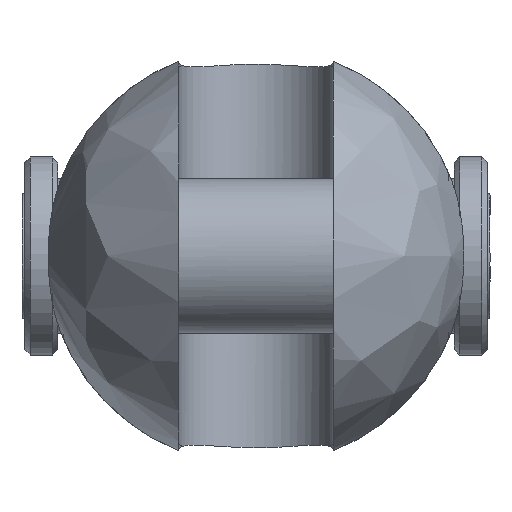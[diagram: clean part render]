
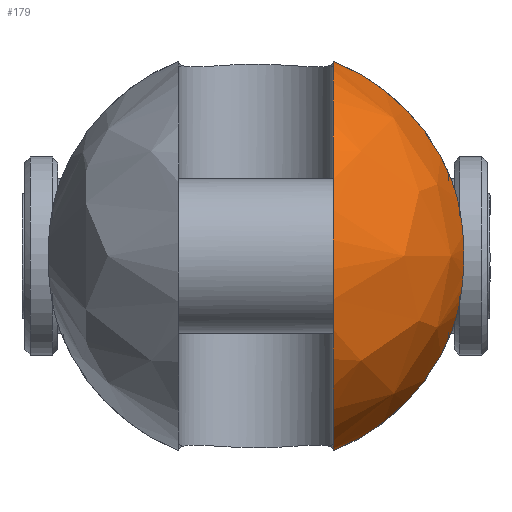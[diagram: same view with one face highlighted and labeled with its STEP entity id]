
A CAD part, left-side view. The second image highlights one B-rep face of the part: STEP entity #179.
In plain terms, the highlighted free-form (B-spline) face has degree [2, 2] with [9, 5] control points.
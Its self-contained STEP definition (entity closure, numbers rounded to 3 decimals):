
#179=ADVANCED_FACE('',(#321),#2437,.T.);
#321=FACE_OUTER_BOUND('',#482,.T.);
#482=EDGE_LOOP('',(#1203,#1204,#1205,#1206));
#1203=ORIENTED_EDGE('',*,*,#1592,.T.);
#1204=ORIENTED_EDGE('',*,*,#1614,.F.);
#1205=ORIENTED_EDGE('',*,*,#1624,.T.);
#1206=ORIENTED_EDGE('',*,*,#1608,.F.);
#1592=EDGE_CURVE('',#2268,#2267,#2000,.T.);
#1608=EDGE_CURVE('',#2268,#2280,#2010,.T.);
#1614=EDGE_CURVE('',#2287,#2267,#2011,.T.);
#1624=EDGE_CURVE('',#2287,#2280,#1800,.T.);
#1800=B_SPLINE_CURVE_WITH_KNOTS('',3,(#6076,#6077,#6078,#6079,#6080,#6081,
#6082,#6083,#6084,#6085),.UNSPECIFIED.,.F.,.F.,(4,2,2,2,4),(0.,3.573,
7.366,11.159,14.732),.UNSPECIFIED.);
#2000=(
BOUNDED_CURVE()
B_SPLINE_CURVE(2,(#5932,#5933,#5934,#5935,#5936),.UNSPECIFIED.,.F.,.F.)
B_SPLINE_CURVE_WITH_KNOTS((3,2,3),(-55.492,-27.746,
0.),.UNSPECIFIED.)
CURVE()
GEOMETRIC_REPRESENTATION_ITEM()
RATIONAL_B_SPLINE_CURVE((1.,0.707,1.,0.707,1.))
REPRESENTATION_ITEM('')
);
#2010=(
BOUNDED_CURVE()
B_SPLINE_CURVE(2,(#6010,#6011,#6012),.UNSPECIFIED.,.F.,.F.)
B_SPLINE_CURVE_WITH_KNOTS((3,3),(0.,15.92),.UNSPECIFIED.)
CURVE()
GEOMETRIC_REPRESENTATION_ITEM()
RATIONAL_B_SPLINE_CURVE((1.,0.914,1.))
REPRESENTATION_ITEM('')
);
#2011=(
BOUNDED_CURVE()
B_SPLINE_CURVE(2,(#6035,#6036,#6037),.UNSPECIFIED.,.F.,.F.)
B_SPLINE_CURVE_WITH_KNOTS((3,3),(0.,15.92),.UNSPECIFIED.)
CURVE()
GEOMETRIC_REPRESENTATION_ITEM()
RATIONAL_B_SPLINE_CURVE((1.,0.914,1.))
REPRESENTATION_ITEM('')
);
#2267=VERTEX_POINT('',#5800);
#2268=VERTEX_POINT('',#5801);
#2280=VERTEX_POINT('',#5813);
#2287=VERTEX_POINT('',#5820);
#2437=(
BOUNDED_SURFACE()
B_SPLINE_SURFACE(2,2,((#5514,#5515,#5516,#5517,#5518),(#5519,#5520,#5521,
#5522,#5523),(#5524,#5525,#5526,#5527,#5528),(#5529,#5530,#5531,#5532,#5533),
(#5534,#5535,#5536,#5537,#5538),(#5539,#5540,#5541,#5542,#5543),(#5544,
#5545,#5546,#5547,#5548),(#5549,#5550,#5551,#5552,#5553),(#5554,#5555,#5556,
#5557,#5558)),.UNSPECIFIED.,.T.,.F.,.F.)
B_SPLINE_SURFACE_WITH_KNOTS((3,2,2,2,3),(3,2,3),(0.,1.571,3.142,
4.712,6.283),(-1.571,0.,1.571),
 .UNSPECIFIED.)
GEOMETRIC_REPRESENTATION_ITEM()
RATIONAL_B_SPLINE_SURFACE(((1.,0.707,1.,0.707,1.),
(0.707,0.5,0.707,0.5,0.707),(1.,0.707,
1.,0.707,1.),(0.707,0.5,0.707,0.5,0.707),
(1.,0.707,1.,0.707,1.),(0.707,0.5,0.707,
0.5,0.707),(1.,0.707,1.,0.707,1.),(0.707,
0.5,0.707,0.5,0.707),(1.,0.707,1.,0.707,
1.)))
REPRESENTATION_ITEM('')
SURFACE()
);
#5514=CARTESIAN_POINT('',(-26.5,0.,0.));
#5515=CARTESIAN_POINT('',(-26.5,19.,0.));
#5516=CARTESIAN_POINT('',(-7.5,19.,0.));
#5517=CARTESIAN_POINT('',(11.5,19.,0.));
#5518=CARTESIAN_POINT('',(11.5,0.,0.));
#5519=CARTESIAN_POINT('',(-26.5,0.,0.));
#5520=CARTESIAN_POINT('',(-26.5,19.,19.));
#5521=CARTESIAN_POINT('',(-7.5,19.,19.));
#5522=CARTESIAN_POINT('',(11.5,19.,19.));
#5523=CARTESIAN_POINT('',(11.5,0.,0.));
#5524=CARTESIAN_POINT('',(-26.5,0.,0.));
#5525=CARTESIAN_POINT('',(-26.5,0.,19.));
#5526=CARTESIAN_POINT('',(-7.5,0.,19.));
#5527=CARTESIAN_POINT('',(11.5,0.,19.));
#5528=CARTESIAN_POINT('',(11.5,0.,0.));
#5529=CARTESIAN_POINT('',(-26.5,0.,0.));
#5530=CARTESIAN_POINT('',(-26.5,-19.,19.));
#5531=CARTESIAN_POINT('',(-7.5,-19.,19.));
#5532=CARTESIAN_POINT('',(11.5,-19.,19.));
#5533=CARTESIAN_POINT('',(11.5,0.,0.));
#5534=CARTESIAN_POINT('',(-26.5,0.,0.));
#5535=CARTESIAN_POINT('',(-26.5,-19.,0.));
#5536=CARTESIAN_POINT('',(-7.5,-19.,0.));
#5537=CARTESIAN_POINT('',(11.5,-19.,0.));
#5538=CARTESIAN_POINT('',(11.5,0.,0.));
#5539=CARTESIAN_POINT('',(-26.5,0.,0.));
#5540=CARTESIAN_POINT('',(-26.5,-19.,-19.));
#5541=CARTESIAN_POINT('',(-7.5,-19.,-19.));
#5542=CARTESIAN_POINT('',(11.5,-19.,-19.));
#5543=CARTESIAN_POINT('',(11.5,0.,0.));
#5544=CARTESIAN_POINT('',(-26.5,0.,0.));
#5545=CARTESIAN_POINT('',(-26.5,0.,-19.));
#5546=CARTESIAN_POINT('',(-7.5,0.,-19.));
#5547=CARTESIAN_POINT('',(11.5,0.,-19.));
#5548=CARTESIAN_POINT('',(11.5,0.,0.));
#5549=CARTESIAN_POINT('',(-26.5,0.,0.));
#5550=CARTESIAN_POINT('',(-26.5,19.,-19.));
#5551=CARTESIAN_POINT('',(-7.5,19.,-19.));
#5552=CARTESIAN_POINT('',(11.5,19.,-19.));
#5553=CARTESIAN_POINT('',(11.5,0.,0.));
#5554=CARTESIAN_POINT('',(-26.5,0.,0.));
#5555=CARTESIAN_POINT('',(-26.5,19.,0.));
#5556=CARTESIAN_POINT('',(-7.5,19.,0.));
#5557=CARTESIAN_POINT('',(11.5,19.,0.));
#5558=CARTESIAN_POINT('',(11.5,0.,0.));
#5800=CARTESIAN_POINT('',(-7.5,-7.,-17.664));
#5801=CARTESIAN_POINT('',(-7.5,-7.,17.664));
#5813=CARTESIAN_POINT('',(-7.5,-17.812,6.614));
#5820=CARTESIAN_POINT('',(-7.5,-17.812,-6.614));
#5932=CARTESIAN_POINT('',(-7.5,-7.,17.664));
#5933=CARTESIAN_POINT('',(-25.164,-7.,17.664));
#5934=CARTESIAN_POINT('',(-25.164,-7.,0.));
#5935=CARTESIAN_POINT('',(-25.164,-7.,-17.664));
#5936=CARTESIAN_POINT('',(-7.5,-7.,-17.664));
#6010=CARTESIAN_POINT('',(-7.5,-7.,17.664));
#6011=CARTESIAN_POINT('',(-7.5,-14.866,14.546));
#6012=CARTESIAN_POINT('',(-7.5,-17.812,6.614));
#6035=CARTESIAN_POINT('',(-7.5,-17.812,-6.614));
#6036=CARTESIAN_POINT('',(-7.5,-14.866,-14.546));
#6037=CARTESIAN_POINT('',(-7.5,-7.,-17.664));
#6076=CARTESIAN_POINT('',(-7.5,-17.812,-6.614));
#6077=CARTESIAN_POINT('',(-8.228,-18.118,-5.788));
#6078=CARTESIAN_POINT('',(-8.869,-18.38,-4.771));
#6079=CARTESIAN_POINT('',(-9.769,-18.743,-2.485));
#6080=CARTESIAN_POINT('',(-10.,-18.835,-1.204));
#6081=CARTESIAN_POINT('',(-10.,-18.835,1.204));
#6082=CARTESIAN_POINT('',(-9.769,-18.743,2.485));
#6083=CARTESIAN_POINT('',(-8.869,-18.38,4.771));
#6084=CARTESIAN_POINT('',(-8.228,-18.118,5.788));
#6085=CARTESIAN_POINT('',(-7.5,-17.812,6.614));
